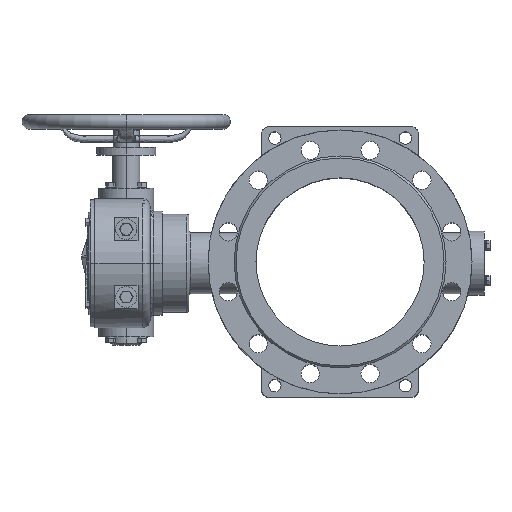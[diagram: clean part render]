
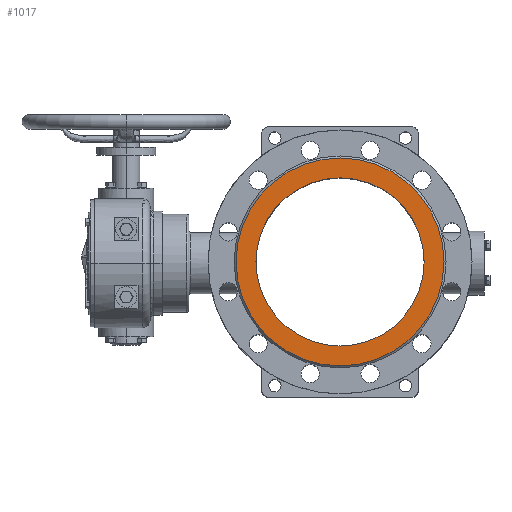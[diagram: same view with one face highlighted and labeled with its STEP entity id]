
A CAD part, top view. The second image highlights one B-rep face of the part: STEP entity #1017.
In plain terms, the highlighted planar face has unit normal (0, 0, 1).
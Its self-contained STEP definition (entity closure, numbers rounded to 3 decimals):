
#296 = VERTEX_POINT ( 'NONE', #8805 ) ;
#299 = EDGE_CURVE ( 'NONE', #310, #296, #8856, .T. ) ;
#310 = VERTEX_POINT ( 'NONE', #8842 ) ;
#1017 = ADVANCED_FACE ( 'NONE', ( #10453, #10444 ), #10449, .T. ) ;
#1018 = EDGE_CURVE ( 'NONE', #16257, #16292, #10482, .T. ) ;
#1019 = EDGE_LOOP ( 'NONE', ( #1020, #1028 ) ) ;
#1020 = ORIENTED_EDGE ( 'NONE', *, *, #1029, .T. ) ;
#1026 = ORIENTED_EDGE ( 'NONE', *, *, #16523, .T. ) ;
#1028 = ORIENTED_EDGE ( 'NONE', *, *, #299, .T. ) ;
#1029 = EDGE_CURVE ( 'NONE', #296, #310, #10394, .T. ) ;
#1030 = EDGE_LOOP ( 'NONE', ( #1032, #1026 ) ) ;
#1032 = ORIENTED_EDGE ( 'NONE', *, *, #1018, .T. ) ;
#8805 = CARTESIAN_POINT ( 'NONE',  ( -159.5, 0., 125. ) ) ;
#8811 = AXIS2_PLACEMENT_3D ( 'NONE', #8855, #8854, #8853 ) ;
#8842 = CARTESIAN_POINT ( 'NONE',  ( 159.5, 0., 125. ) ) ;
#8853 = DIRECTION ( 'NONE',  ( 1., 0., 0. ) ) ;
#8854 = DIRECTION ( 'NONE',  ( 0., 0., 1. ) ) ;
#8855 = CARTESIAN_POINT ( 'NONE',  ( 0., 0., 125. ) ) ;
#8856 = CIRCLE ( 'NONE', #8811, 159.5 ) ;
#10394 = CIRCLE ( 'NONE', #10478, 159.5 ) ;
#10428 = DIRECTION ( 'NONE',  ( 1., 0., 0. ) ) ;
#10429 = DIRECTION ( 'NONE',  ( 0., 0., 1. ) ) ;
#10432 = AXIS2_PLACEMENT_3D ( 'NONE', #10481, #10480, #10479 ) ;
#10437 = CARTESIAN_POINT ( 'NONE',  ( 0., 0., 125. ) ) ;
#10442 = AXIS2_PLACEMENT_3D ( 'NONE', #10437, #10429, #10428 ) ;
#10444 = FACE_OUTER_BOUND ( 'NONE', #1019, .T. ) ;
#10449 = PLANE ( 'NONE',  #10442 ) ;
#10453 = FACE_BOUND ( 'NONE', #1030, .T. ) ;
#10468 = DIRECTION ( 'NONE',  ( 1., 0., 0. ) ) ;
#10469 = DIRECTION ( 'NONE',  ( 0., 0., 1. ) ) ;
#10470 = CARTESIAN_POINT ( 'NONE',  ( 0., 0., 125. ) ) ;
#10478 = AXIS2_PLACEMENT_3D ( 'NONE', #10470, #10469, #10468 ) ;
#10479 = DIRECTION ( 'NONE',  ( -1., 0., 0. ) ) ;
#10480 = DIRECTION ( 'NONE',  ( 0., 0., -1. ) ) ;
#10481 = CARTESIAN_POINT ( 'NONE',  ( 0., 0., 125. ) ) ;
#10482 = CIRCLE ( 'NONE', #10432, 129. ) ;
#16257 = VERTEX_POINT ( 'NONE', #24404 ) ;
#16292 = VERTEX_POINT ( 'NONE', #24376 ) ;
#16523 = EDGE_CURVE ( 'NONE', #16292, #16257, #24395, .T. ) ;
#24376 = CARTESIAN_POINT ( 'NONE',  ( 129., 0., 125. ) ) ;
#24395 = CIRCLE ( 'NONE', #24432, 129. ) ;
#24404 = CARTESIAN_POINT ( 'NONE',  ( -129., 0., 125. ) ) ;
#24429 = DIRECTION ( 'NONE',  ( -1., 0., 0. ) ) ;
#24430 = DIRECTION ( 'NONE',  ( 0., 0., -1. ) ) ;
#24431 = CARTESIAN_POINT ( 'NONE',  ( 0., 0., 125. ) ) ;
#24432 = AXIS2_PLACEMENT_3D ( 'NONE', #24431, #24430, #24429 ) ;
